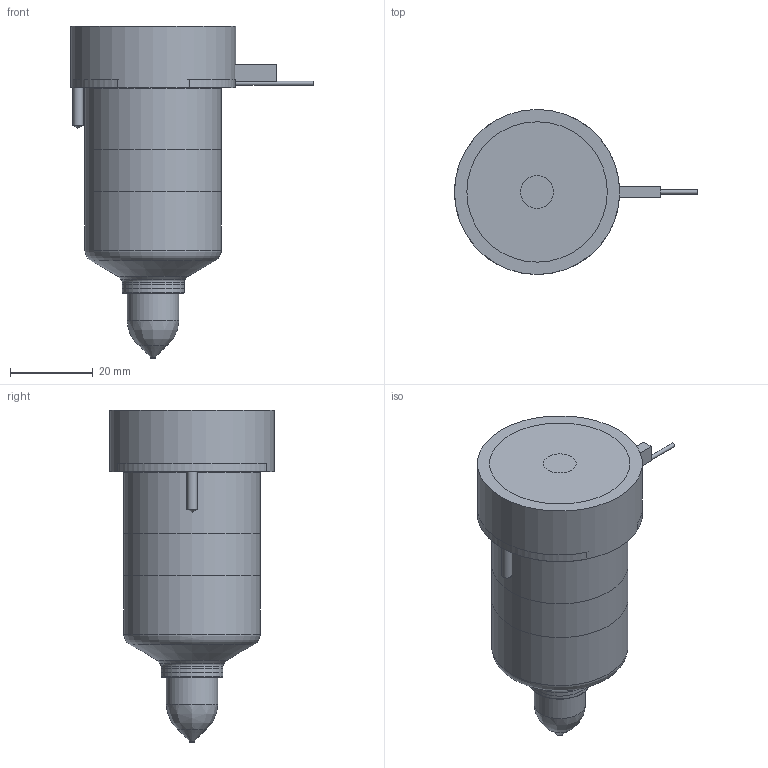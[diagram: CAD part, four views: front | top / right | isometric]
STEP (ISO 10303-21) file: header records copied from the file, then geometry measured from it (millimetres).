
FILE_DESCRIPTION(/* description */ (''),/* implementation_level */ '2;1');
FILE_NAME(/* name */ 'BXTT-BXIT19055-10_250C_b',/* time_stamp */ '2007-01-18T10:00:08+13:00',/* author */ (''),/* organization */ (''),/* preprocessor_version */ 'ST-DEVELOPER v9',/* originating_system */ 'UGS - NX 4.0',/* authorisation */ '');
FILE_SCHEMA (('CONFIG_CONTROL_DESIGN'));
Length unit declared in the file: millimetre
Products named in the file (1): BXTT-BXIT19055-10_250C_b
Bounding box: 58.85 x 40 x 80.41 mm (x, y, z)
Volume: 112514.8 mm3; surface area: 22069 mm2
Topology: 6 solids, 6 shells, 82 faces, 162 edges, 102 vertices
Faces by surface type: plane 35, cylinder 25, cone 12, torus 8, bspline 2
Full cylindrical faces by diameter (mm): 1 x3, 1.2 x1, 2.5 x2, 8 x1, 9 x1, 12.5 x1, 14.61 x1, 15.01 x2, 18.3 x1, 28.6 x1, 33 x2, 40 x1
Entity records: 2043 total; most frequent: CARTESIAN_POINT 427, DIRECTION 340, ORIENTED_EDGE 236, AXIS2_PLACEMENT_3D 151, EDGE_LOOP 128, EDGE_CURVE 118, VERTEX_POINT 95, ADVANCED_FACE 82
